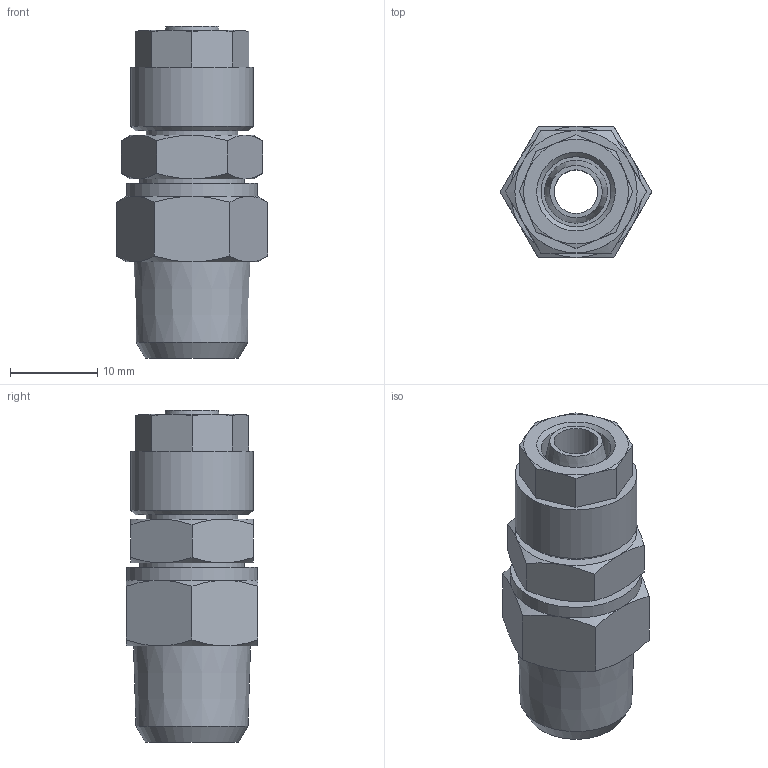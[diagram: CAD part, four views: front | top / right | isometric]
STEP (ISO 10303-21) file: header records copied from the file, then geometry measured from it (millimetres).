
FILE_DESCRIPTION(/* description */ (''),/* implementation_level */ '2;1');
FILE_NAME(/* name */ '10104_301DK_8-6_R14_20.07.16',/* time_stamp */ '2016-07-20T09:19:52+02:00',/* author */ (''),/* organization */ (''),/* preprocessor_version */ 'ST-DEVELOPER v16.5',/* originating_system */ 'HiCAD 2016 2101.0 Build 254',/* authorisation */ '');
FILE_SCHEMA (('AUTOMOTIVE_DESIGN { 1 0 10303 214 1 1 1 1 }'));
Length unit declared in the file: millimetre
Products named in the file (4): Root; 10104_Gewinde; 17006; 10104_Anschluss
Assembly tree (3 placements, depth 2):
  Root
    10104_Gewinde
    17006
    10104_Anschluss
Bounding box: 17.32 x 15 x 38 mm (x, y, z)
Volume: 4502.4 mm3; surface area: 4301.5 mm2
Topology: 3 solids, 3 shells, 87 faces, 189 edges, 117 vertices
Faces by surface type: cone 42, plane 33, cylinder 11, torus 1
Full cylindrical faces by diameter (mm): 5 x1, 6.8 x1, 8 x2, 10.5 x1, 10.773 x1, 12 x2, 12.2 x1, 14 x1, 15 x1
Entity records: 3856 total; most frequent: DIRECTION 470, CARTESIAN_POINT 355, PRESENTATION_STYLE_ASSIGNMENT 315, COLOUR_RGB 313, DRAUGHTING_PRE_DEFINED_CURVE_FONT 312, CURVE_STYLE 312, OVER_RIDING_STYLED_ITEM 312, ORIENTED_EDGE 312
